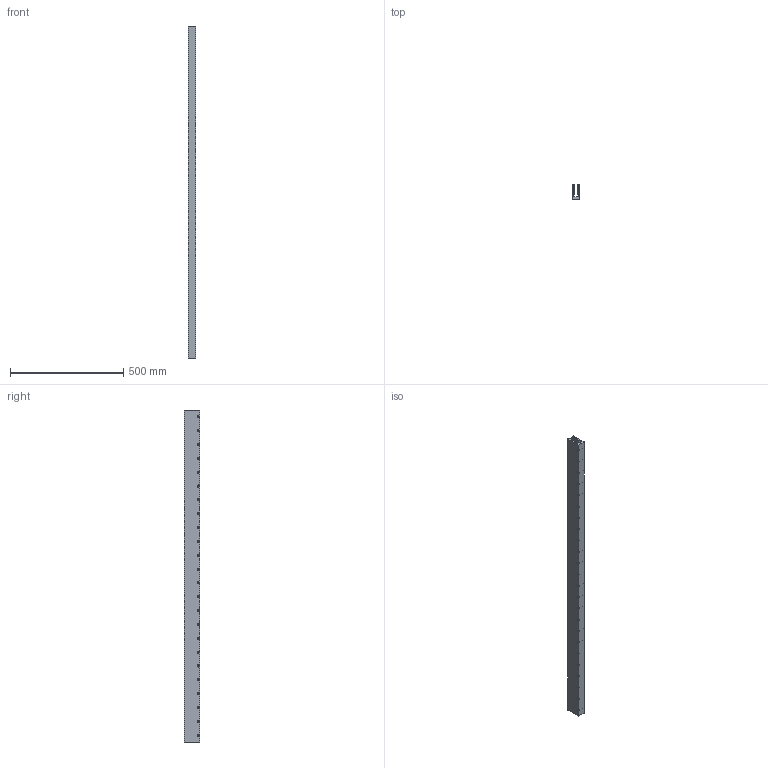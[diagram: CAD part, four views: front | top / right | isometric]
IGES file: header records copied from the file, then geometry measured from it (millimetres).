
Global section: file name: No Iges File Name specified; native system: Autodesk Inventor 2012; preprocessor: AutoDesk Inventor Iges Exporter R2012; author: je17857; date: 20120511.155858; units: inch
Bounding box: 34.29 x 67.31 x 1462.79 mm (x, y, z)
Volume: 2175196.9 mm3; surface area: 553666.4 mm2
Topology: 1 solids, 1 shells, 610 faces, 1392 edges, 928 vertices
Faces by surface type: plane 538, revolution 72
